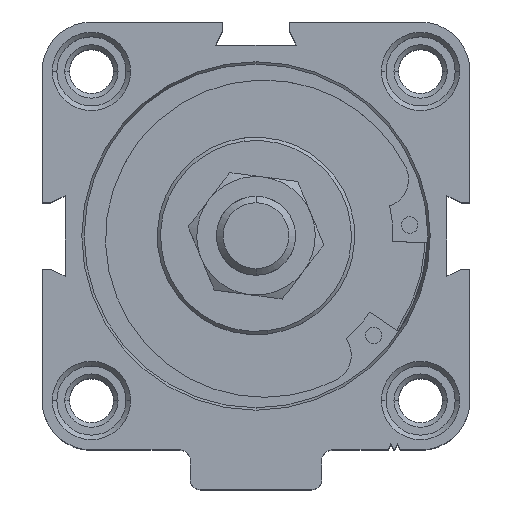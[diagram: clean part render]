
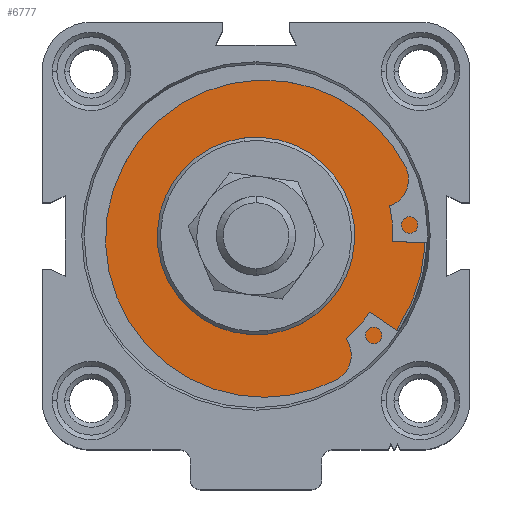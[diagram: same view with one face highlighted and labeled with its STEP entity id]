
A CAD part, top view. The second image highlights one B-rep face of the part: STEP entity #6777.
In plain terms, the highlighted planar face has unit normal (0, 0, 1).
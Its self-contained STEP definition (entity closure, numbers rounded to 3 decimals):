
#1174 = EDGE_LOOP ( 'NONE', ( #6335, #10161 ) ) ;
#1218 = VERTEX_POINT ( 'NONE', #9304 ) ;
#1286 = DIRECTION ( 'NONE',  ( 0., 0., -1. ) ) ;
#1894 = AXIS2_PLACEMENT_3D ( 'NONE', #22215, #1286, #20452 ) ;
#2590 = DIRECTION ( 'NONE',  ( 0.115, -0.993, 0. ) ) ;
#2932 = DIRECTION ( 'NONE',  ( -0.115, 0.993, 0. ) ) ;
#2941 = EDGE_CURVE ( 'NONE', #7681, #1218, #5115, .T. ) ;
#3165 = DIRECTION ( 'NONE',  ( 0., 0., -1. ) ) ;
#4402 = EDGE_LOOP ( 'NONE', ( #14617, #18402 ) ) ;
#4593 = DIRECTION ( 'NONE',  ( 0., 0., 1. ) ) ;
#5115 = CIRCLE ( 'NONE', #22275, 15. ) ;
#5838 = EDGE_CURVE ( 'NONE', #18633, #16038, #12059, .T. ) ;
#6166 = EDGE_CURVE ( 'NONE', #16038, #18633, #9017, .T. ) ;
#6335 = ORIENTED_EDGE ( 'NONE', *, *, #5838, .F. ) ;
#6777 = ADVANCED_FACE ( 'NONE', ( #22396, #13636 ), #12650, .F. ) ;
#7209 = AXIS2_PLACEMENT_3D ( 'NONE', #17844, #21613, #7615 ) ;
#7615 = DIRECTION ( 'NONE',  ( -0.115, 0.993, 0. ) ) ;
#7681 = VERTEX_POINT ( 'NONE', #8045 ) ;
#8045 = CARTESIAN_POINT ( 'NONE',  ( -1.723, 14.901, 105.25 ) ) ;
#8454 = AXIS2_PLACEMENT_3D ( 'NONE', #13082, #4593, #2590 ) ;
#9017 = CIRCLE ( 'NONE', #1894, 25.7 ) ;
#9252 = AXIS2_PLACEMENT_3D ( 'NONE', #13652, #3165, #2932 ) ;
#9304 = CARTESIAN_POINT ( 'NONE',  ( 1.723, -14.901, 105.25 ) ) ;
#10161 = ORIENTED_EDGE ( 'NONE', *, *, #6166, .F. ) ;
#10269 = CARTESIAN_POINT ( 'NONE',  ( 2.952, -25.53, 105.25 ) ) ;
#10451 = DIRECTION ( 'NONE',  ( 0.115, -0.993, 0. ) ) ;
#12042 = DIRECTION ( 'NONE',  ( 0., 0., 1. ) ) ;
#12059 = CIRCLE ( 'NONE', #9252, 25.7 ) ;
#12650 = PLANE ( 'NONE',  #7209 ) ;
#13082 = CARTESIAN_POINT ( 'NONE',  ( 0., 0., 105.25 ) ) ;
#13562 = CIRCLE ( 'NONE', #8454, 15. ) ;
#13636 = FACE_BOUND ( 'NONE', #4402, .T. ) ;
#13652 = CARTESIAN_POINT ( 'NONE',  ( 0., 0., 105.25 ) ) ;
#14617 = ORIENTED_EDGE ( 'NONE', *, *, #2941, .F. ) ;
#14942 = CARTESIAN_POINT ( 'NONE',  ( -2.952, 25.53, 105.25 ) ) ;
#15879 = CARTESIAN_POINT ( 'NONE',  ( 0., 0., 105.25 ) ) ;
#16038 = VERTEX_POINT ( 'NONE', #10269 ) ;
#17844 = CARTESIAN_POINT ( 'NONE',  ( 0., 0., 105.25 ) ) ;
#18402 = ORIENTED_EDGE ( 'NONE', *, *, #22404, .F. ) ;
#18633 = VERTEX_POINT ( 'NONE', #14942 ) ;
#20452 = DIRECTION ( 'NONE',  ( -0.115, 0.993, 0. ) ) ;
#21613 = DIRECTION ( 'NONE',  ( 0., 0., -1. ) ) ;
#22215 = CARTESIAN_POINT ( 'NONE',  ( 0., 0., 105.25 ) ) ;
#22275 = AXIS2_PLACEMENT_3D ( 'NONE', #15879, #12042, #10451 ) ;
#22396 = FACE_OUTER_BOUND ( 'NONE', #1174, .T. ) ;
#22404 = EDGE_CURVE ( 'NONE', #1218, #7681, #13562, .T. ) ;
